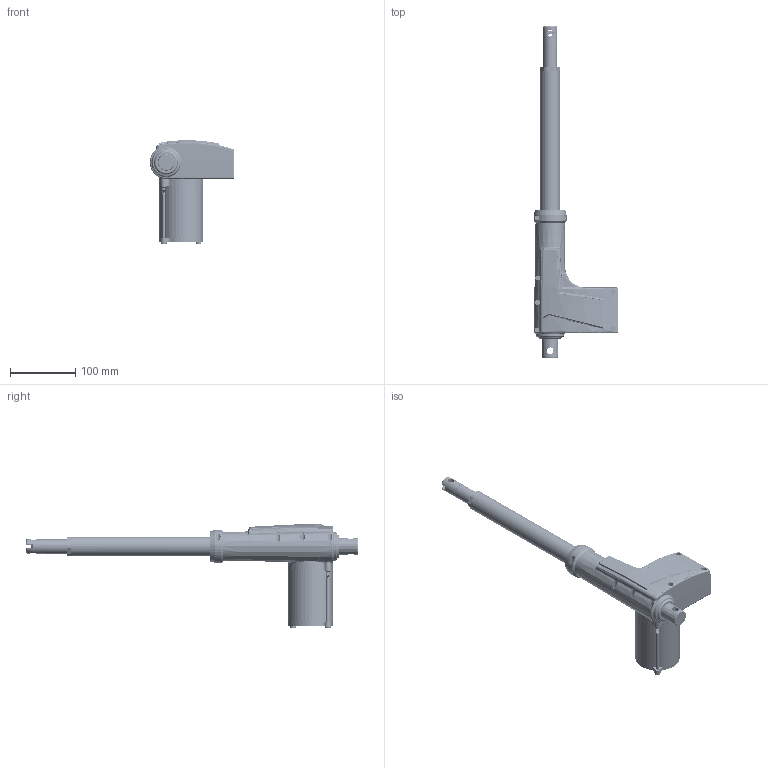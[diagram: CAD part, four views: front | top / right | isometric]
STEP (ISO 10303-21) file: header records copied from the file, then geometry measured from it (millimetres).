
FILE_DESCRIPTION (( 'STEP AP214' ), '1' );
FILE_NAME ('SES-LA-300-P05', '2026-05-27T03:12:47', ( '' ), ( '' ), 'SwSTEP 2.0', '', '' );
FILE_SCHEMA (( 'AUTOMOTIVE_DESIGN' ));
Length unit declared in the file: millimetre
Products named in the file (27): SES-LA-300-P06; SES-LA-300-ASSY; SES-LA-300-P16; SES-LA-300-P14; SES-LA-300-P15; SES-LA-300-P10; SES-LA-300-P01; SES-LA-300-P19; SES-LA-300-P08; SES-LA-300-P23; SES-LA-300-P17; SES-LA-300-P25; SES-LA-300-P24; SES-LA-300-P09; SES-LA-300-P22; SES-LA-300-P02; SES-LA-300-P21; SES-LA-300-P26; SES-LA-300-P04; SES-LA-300-P07; SES-LA-300-P13; SES-LA-300-P03; SES-LA-300-P11; SES-LA-300-P20; SES-LA-300-P18; SES-LA-300-P12; SES-LA-300
Assembly tree (31 placements, depth 3):
  SES-LA-300
    SES-LA-300-ASSY
      SES-LA-300-P03
      SES-LA-300-P14
      SES-LA-300-P19
      SES-LA-300-P21
      SES-LA-300-P26  x2
      SES-LA-300-P04  x2
      SES-LA-300-P02
      SES-LA-300-P20
      SES-LA-300-P18
      SES-LA-300-P25  x2
      SES-LA-300-P11
      SES-LA-300-P22
      SES-LA-300-P06
      SES-LA-300-P08
      SES-LA-300-P12
      SES-LA-300-P13
      SES-LA-300-P15
      SES-LA-300-P24
      SES-LA-300-P16
      SES-LA-300-P10  x2
      SES-LA-300-P17
      SES-LA-300-P09
      SES-LA-300-P01
      SES-LA-300-P07  x2
      SES-LA-300-P23
Bounding box: 129 x 507 x 158.3 mm (x, y, z)
Volume: 528193.1 mm3; surface area: 382978.1 mm2
Topology: 28 solids, 37 shells, 3591 faces, 9342 edges, 5904 vertices
Faces by surface type: cylinder 1320, plane 1073, bspline 558, torus 402, cone 201, sphere 37
Entity records: 236572 total; most frequent: CARTESIAN_POINT 164082, ORIENTED_EDGE 16838, DIRECTION 12621, EDGE_CURVE 8435, VERTEX_POINT 5360, AXIS2_PLACEMENT_3D 4868, EDGE_LOOP 3443, ADVANCED_FACE 3241
